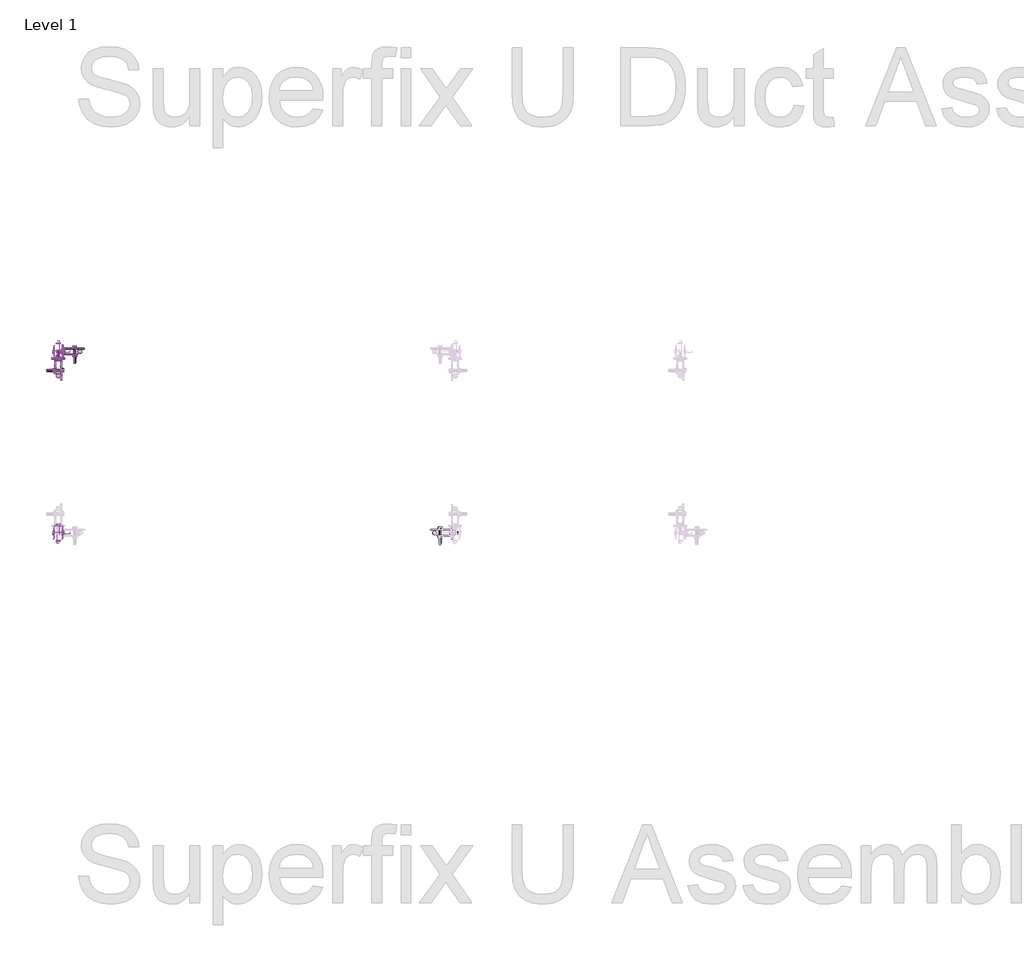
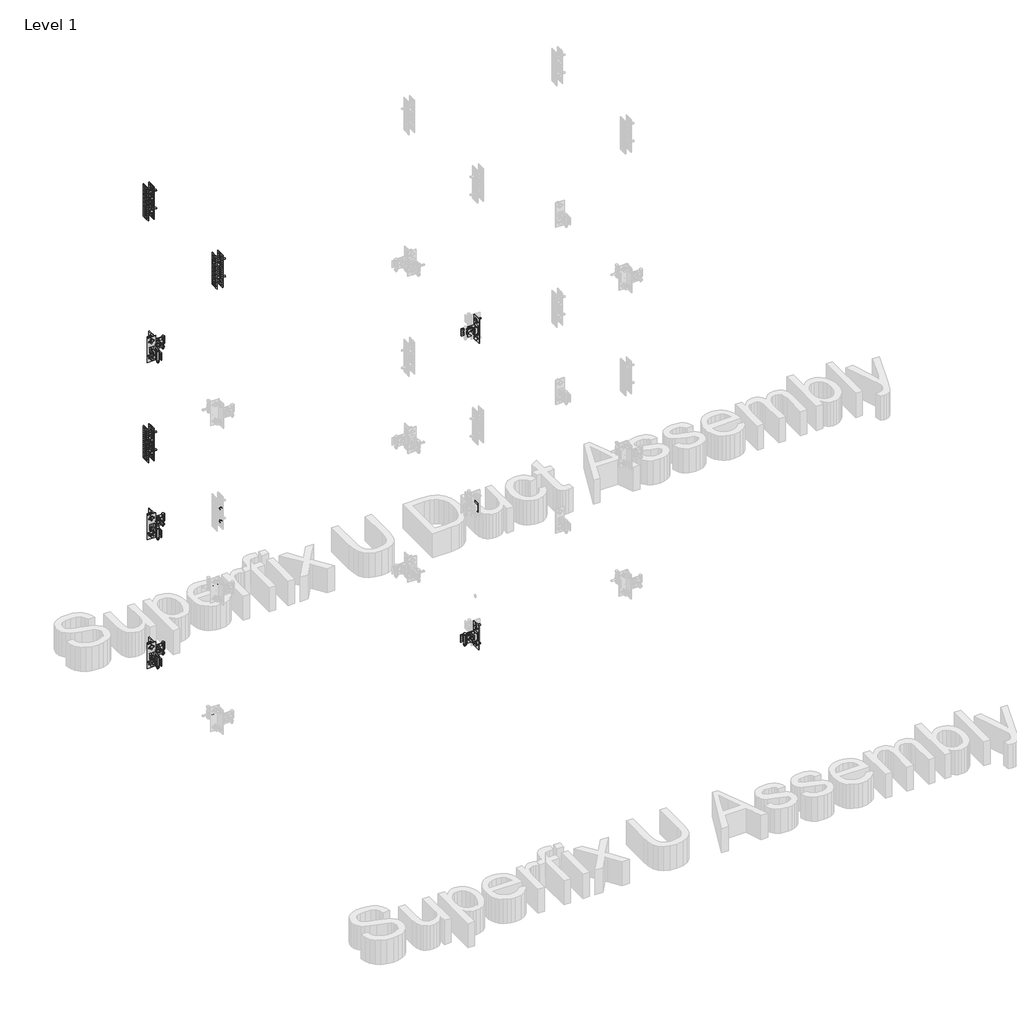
# One storey, part 9 of 32: 143 valves.
"""IFC4 building model written with IfcOpenShell, lengths in millimetres."""

from ifc_helpers import new_model, si_unit, origin, place, context, project, spatial, transform, mapped, element, save
from components import valve_fad8a5b8, hexagon_nut_galvanized_extra_m8_53389388, superfix_hexagon_screw_galvanized_8354a985, superfix_hexagon_screw_galvanized_f0d66714, superfix_hexagon_screw_galvanized_68d17cb7, superfix_hexagon_screw_galvanized_e39b877e, superfix_hexagon_screw_galvanized_3ef5af78, superfix_hexagon_screw_galvanized_3d7df342, superfix_strap_981cfdac, superfix_u_658711f6, superfix_u_31397e19, superfix_u_bracket_h_0b8578fe, superfix_u_bracket_h_f60a1122

model = new_model("IFC4")

# Units and contexts
model_context = context("Model", 3, world=origin())
ifc_project = project(units=[si_unit("LENGTHUNIT", "METRE", prefix="MILLI")], contexts=[model_context])

# Site, building, storey
site = spatial("IfcSite", under=ifc_project)
building = spatial("IfcBuilding", under=site)
storey = spatial("IfcBuildingStorey", under=building, Name="Level 1", Elevation=0.0)

# Valves
placement = place(None, origin())
valve_shape = valve_fad8a5b8(model_context)
element("IfcValve", 1, ObjectType="Superfix Flat Washer : Superfix Flat Washer M8x15x1.5", at=placement, inside=storey, context=model_context, shape_type="MappedRepresentation", body=[
    mapped(valve_shape, transform((-21166.450626, 28765.46055, 700.0), x_axis=(1.0, 0.0, 0.0), y_axis=(0.0, 0.0, 1.0), z_axis=(0.0, -1.0, 0.0))),
])
element("IfcValve", 2, ObjectType="Superfix Flat Washer : Superfix Flat Washer M8x15x1.5", at=placement, inside=storey, context=model_context, shape_type="MappedRepresentation", body=[
    mapped(valve_shape, transform((-21115.450626, 28777.96055, 758.0), x_axis=(0.0, 0.0, 1.0), y_axis=(0.0, 1.0, 0.0), z_axis=(-1.0, 0.0, 0.0))),
])
element("IfcValve", 3, ObjectType="Superfix Flat Washer : Superfix Flat Washer M8x15x1.5", at=placement, inside=storey, context=model_context, shape_type="MappedRepresentation", body=[
    mapped(valve_shape, transform((-21115.450626, 28777.96055, 642.0), x_axis=(0.0, 0.0, 1.0), y_axis=(0.0, 1.0, 0.0), z_axis=(-1.0, 0.0, 0.0))),
])
element("IfcValve", 4, ObjectType="Superfix Flat Washer : Superfix Flat Washer M8x15x1.5", at=placement, inside=storey, context=model_context, shape_type="MappedRepresentation", body=[
    mapped(valve_shape, transform((-21186.450626, 28777.96055, 671.5), x_axis=(1.0, 0.0, 0.0), y_axis=(0.0, -1.0, 0.0), z_axis=(0.0, 0.0, -1.0))),
])
element("IfcValve", 5, ObjectType="Superfix Flat Washer : Superfix Flat Washer M8x15x1.5", at=placement, inside=storey, context=model_context, shape_type="MappedRepresentation", body=[
    mapped(valve_shape, transform((-22576.450626, 29465.46055, 1500.0), x_axis=(1.0, 0.0, 0.0), y_axis=(0.0, 0.0, 1.0), z_axis=(0.0, -1.0, 0.0))),
])
element("IfcValve", 6, ObjectType="Superfix Flat Washer : Superfix Flat Washer M8x15x1.5", at=placement, inside=storey, context=model_context, shape_type="MappedRepresentation", body=[
    mapped(valve_shape, transform((-22625.850626, 29477.96055, 1442.0), x_axis=(0.0, 0.0, 1.0), y_axis=(0.0, 1.0, 0.0), z_axis=(-1.0, 0.0, 0.0))),
])
element("IfcValve", 7, ObjectType="Superfix Flat Washer : Superfix Flat Washer M8x15x1.5", at=placement, inside=storey, context=model_context, shape_type="MappedRepresentation", body=[
    mapped(valve_shape, transform((-22625.850626, 29477.96055, 1558.0), x_axis=(0.0, 0.0, 1.0), y_axis=(0.0, 1.0, 0.0), z_axis=(-1.0, 0.0, 0.0))),
])
element("IfcValve", 8, ObjectType="Superfix Flat Washer : Superfix Flat Washer M8x15x1.5", at=placement, inside=storey, context=model_context, shape_type="MappedRepresentation", body=[
    mapped(valve_shape, transform((-22556.450626, 29477.96055, 1471.5), x_axis=(1.0, 0.0, 0.0), y_axis=(0.0, -1.0, 0.0), z_axis=(0.0, 0.0, -1.0))),
])
element("IfcValve", 9, ObjectType="Superfix Flat Washer : Superfix Flat Washer M8x15x1.5", at=placement, inside=storey, context=model_context, shape_type="MappedRepresentation", body=[
    mapped(valve_shape, transform((-22576.450626, 29465.46055, 700.0), x_axis=(1.0, 0.0, 0.0), y_axis=(0.0, 0.0, 1.0), z_axis=(0.0, -1.0, 0.0))),
])
element("IfcValve", 10, ObjectType="Superfix Flat Washer : Superfix Flat Washer M8x15x1.5", at=placement, inside=storey, context=model_context, shape_type="MappedRepresentation", body=[
    mapped(valve_shape, transform((-22625.850626, 29477.96055, 642.0), x_axis=(0.0, 0.0, 1.0), y_axis=(0.0, 1.0, 0.0), z_axis=(-1.0, 0.0, 0.0))),
])
element("IfcValve", 11, ObjectType="Superfix Flat Washer : Superfix Flat Washer M8x15x1.5", at=placement, inside=storey, context=model_context, shape_type="MappedRepresentation", body=[
    mapped(valve_shape, transform((-22625.850626, 29477.96055, 758.0), x_axis=(0.0, 0.0, 1.0), y_axis=(0.0, 1.0, 0.0), z_axis=(-1.0, 0.0, 0.0))),
])
element("IfcValve", 12, ObjectType="Superfix Flat Washer : Superfix Flat Washer M8x15x1.5", at=placement, inside=storey, context=model_context, shape_type="MappedRepresentation", body=[
    mapped(valve_shape, transform((-22556.450626, 29477.96055, 671.5), x_axis=(1.0, 0.0, 0.0), y_axis=(0.0, -1.0, 0.0), z_axis=(0.0, 0.0, -1.0))),
])
element("IfcValve", 13, ObjectType="Superfix Flat Washer : Superfix Flat Washer M8x15x1.5", at=placement, inside=storey, context=model_context, shape_type="MappedRepresentation", body=[
    mapped(valve_shape, transform((-22576.450626, 29465.46055, 2600.0), x_axis=(1.0, 0.0, 0.0), y_axis=(0.0, 0.0, 1.0), z_axis=(0.0, -1.0, 0.0))),
])
element("IfcValve", 14, ObjectType="Superfix Flat Washer : Superfix Flat Washer M8x15x1.5", at=placement, inside=storey, context=model_context, shape_type="MappedRepresentation", body=[
    mapped(valve_shape, transform((-22625.850626, 29477.96055, 2542.0), x_axis=(0.0, 0.0, 1.0), y_axis=(0.0, 1.0, 0.0), z_axis=(-1.0, 0.0, 0.0))),
])
element("IfcValve", 15, ObjectType="Superfix Flat Washer : Superfix Flat Washer M8x15x1.5", at=placement, inside=storey, context=model_context, shape_type="MappedRepresentation", body=[
    mapped(valve_shape, transform((-22625.850626, 29477.96055, 2658.0), x_axis=(0.0, 0.0, 1.0), y_axis=(0.0, 1.0, 0.0), z_axis=(-1.0, 0.0, 0.0))),
])
element("IfcValve", 16, ObjectType="Superfix Flat Washer : Superfix Flat Washer M8x15x1.5", at=placement, inside=storey, context=model_context, shape_type="MappedRepresentation", body=[
    mapped(valve_shape, transform((-22556.450626, 29477.96055, 2571.5), x_axis=(1.0, 0.0, 0.0), y_axis=(0.0, -1.0, 0.0), z_axis=(0.0, 0.0, -1.0))),
])
element("IfcValve", 17, ObjectType="Superfix Flat Washer : Superfix Flat Washer M8x15x1.5", at=placement, inside=storey, context=model_context, shape_type="MappedRepresentation", body=[
    mapped(valve_shape, transform((-22652.950626, 29403.96055, 2600.0), x_axis=(0.0, -1.0, 0.0), y_axis=(0.0, 0.0, 1.0), z_axis=(-1.0, 0.0, 0.0))),
])
element("IfcValve", 18, ObjectType="Superfix Flat Washer : Superfix Flat Washer M8x15x1.5", at=placement, inside=storey, context=model_context, shape_type="MappedRepresentation", body=[
    mapped(valve_shape, transform((-22640.450626, 29453.36055, 2542.0), x_axis=(0.0, 0.0, 1.0), y_axis=(1.0, 0.0, 0.0), z_axis=(0.0, 1.0, 0.0))),
])
element("IfcValve", 19, ObjectType="Superfix Flat Washer : Superfix Flat Washer M8x15x1.5", at=placement, inside=storey, context=model_context, shape_type="MappedRepresentation", body=[
    mapped(valve_shape, transform((-22640.450626, 29453.36055, 2658.0), x_axis=(0.0, 0.0, 1.0), y_axis=(1.0, 0.0, 0.0), z_axis=(0.0, 1.0, 0.0))),
])
element("IfcValve", 20, ObjectType="Superfix Flat Washer : Superfix Flat Washer M8x15x1.5", at=placement, inside=storey, context=model_context, shape_type="MappedRepresentation", body=[
    mapped(valve_shape, transform((-22640.450626, 29383.96055, 2571.5), x_axis=(0.0, -1.0, 0.0), y_axis=(-1.0, 0.0, 0.0), z_axis=(0.0, 0.0, -1.0))),
])
element("IfcValve", 21, ObjectType="Superfix Flat Washer : Superfix Flat Washer M8x15x1.5", at=placement, inside=storey, context=model_context, shape_type="MappedRepresentation", body=[
    mapped(valve_shape, transform((-22652.950626, 29403.96055, 1500.0), x_axis=(0.0, -1.0, 0.0), y_axis=(0.0, 0.0, 1.0), z_axis=(-1.0, 0.0, 0.0))),
])
element("IfcValve", 22, ObjectType="Superfix Flat Washer : Superfix Flat Washer M8x15x1.5", at=placement, inside=storey, context=model_context, shape_type="MappedRepresentation", body=[
    mapped(valve_shape, transform((-22640.450626, 29453.36055, 1442.0), x_axis=(0.0, 0.0, 1.0), y_axis=(1.0, 0.0, 0.0), z_axis=(0.0, 1.0, 0.0))),
])
element("IfcValve", 23, ObjectType="Superfix Flat Washer : Superfix Flat Washer M8x15x1.5", at=placement, inside=storey, context=model_context, shape_type="MappedRepresentation", body=[
    mapped(valve_shape, transform((-22640.450626, 29453.36055, 1558.0), x_axis=(0.0, 0.0, 1.0), y_axis=(1.0, 0.0, 0.0), z_axis=(0.0, 1.0, 0.0))),
])
element("IfcValve", 24, ObjectType="Superfix Flat Washer : Superfix Flat Washer M8x15x1.5", at=placement, inside=storey, context=model_context, shape_type="MappedRepresentation", body=[
    mapped(valve_shape, transform((-22640.450626, 29383.96055, 1471.5), x_axis=(0.0, -1.0, 0.0), y_axis=(-1.0, 0.0, 0.0), z_axis=(0.0, 0.0, -1.0))),
])
element("IfcValve", 25, ObjectType="Superfix Flat Washer : Superfix Flat Washer M8x15x1.5", at=placement, inside=storey, context=model_context, shape_type="MappedRepresentation", body=[
    mapped(valve_shape, transform((-22652.950626, 29404.96055, 700.0), x_axis=(0.0, -1.0, 0.0), y_axis=(0.0, 0.0, 1.0), z_axis=(-1.0, 0.0, 0.0))),
])
element("IfcValve", 26, ObjectType="Superfix Flat Washer : Superfix Flat Washer M8x15x1.5", at=placement, inside=storey, context=model_context, shape_type="MappedRepresentation", body=[
    mapped(valve_shape, transform((-22640.450626, 29454.36055, 642.0), x_axis=(0.0, 0.0, 1.0), y_axis=(1.0, 0.0, 0.0), z_axis=(0.0, 1.0, 0.0))),
])
element("IfcValve", 27, ObjectType="Superfix Flat Washer : Superfix Flat Washer M8x15x1.5", at=placement, inside=storey, context=model_context, shape_type="MappedRepresentation", body=[
    mapped(valve_shape, transform((-22640.450626, 29454.36055, 758.0), x_axis=(0.0, 0.0, 1.0), y_axis=(1.0, 0.0, 0.0), z_axis=(0.0, 1.0, 0.0))),
])
element("IfcValve", 28, ObjectType="Superfix Flat Washer : Superfix Flat Washer M8x15x1.5", at=placement, inside=storey, context=model_context, shape_type="MappedRepresentation", body=[
    mapped(valve_shape, transform((-22640.450626, 29384.96055, 671.5), x_axis=(0.0, -1.0, 0.0), y_axis=(-1.0, 0.0, 0.0), z_axis=(0.0, 0.0, -1.0))),
])
element("IfcValve", 29, ObjectType="Superfix Flat Washer : Superfix Flat Washer M8x15x1.5", at=placement, inside=storey, context=model_context, shape_type="MappedRepresentation", body=[
    mapped(valve_shape, transform((-22624.450626, 29477.96055, 1945.0), x_axis=(0.0, 1.0, 0.0), y_axis=(0.0, 0.0, 1.0), z_axis=(1.0, 0.0, 0.0))),
])
element("IfcValve", 30, ObjectType="Superfix Flat Washer : Superfix Flat Washer M8x15x1.5", at=placement, inside=storey, context=model_context, shape_type="MappedRepresentation", body=[
    mapped(valve_shape, transform((-22624.450626, 29477.96055, 2055.0), x_axis=(0.0, 1.0, 0.0), y_axis=(0.0, 0.0, 1.0), z_axis=(1.0, 0.0, 0.0))),
])
element("IfcValve", 31, ObjectType="Superfix Flat Washer : Superfix Flat Washer M8x15x1.5", at=placement, inside=storey, context=model_context, shape_type="MappedRepresentation", body=[
    mapped(valve_shape, transform((-22640.450626, 29508.06055, 2040.0), x_axis=(1.0, 0.0, 0.0), y_axis=(0.0, 0.0, 1.0), z_axis=(0.0, -1.0, 0.0))),
])
element("IfcValve", 32, ObjectType="Superfix Flat Washer : Superfix Flat Washer M8x15x1.5", at=placement, inside=storey, context=model_context, shape_type="MappedRepresentation", body=[
    mapped(valve_shape, transform((-22640.450626, 29508.06055, 1960.0), x_axis=(1.0, 0.0, 0.0), y_axis=(0.0, 0.0, 1.0), z_axis=(0.0, -1.0, 0.0))),
])
element("IfcValve", 33, ObjectType="Superfix Flat Washer : Superfix Flat Washer M8x15x1.5", at=placement, inside=storey, context=model_context, shape_type="MappedRepresentation", body=[
    mapped(valve_shape, transform((-22624.450626, 29477.96055, 3445.0), x_axis=(0.0, 1.0, 0.0), y_axis=(0.0, 0.0, 1.0), z_axis=(1.0, 0.0, 0.0))),
])
element("IfcValve", 34, ObjectType="Superfix Flat Washer : Superfix Flat Washer M8x15x1.5", at=placement, inside=storey, context=model_context, shape_type="MappedRepresentation", body=[
    mapped(valve_shape, transform((-22624.450626, 29477.96055, 3555.0), x_axis=(0.0, 1.0, 0.0), y_axis=(0.0, 0.0, 1.0), z_axis=(1.0, 0.0, 0.0))),
])
element("IfcValve", 35, ObjectType="Superfix Flat Washer : Superfix Flat Washer M8x15x1.5", at=placement, inside=storey, context=model_context, shape_type="MappedRepresentation", body=[
    mapped(valve_shape, transform((-22624.450626, 28777.96055, 3445.0), x_axis=(0.0, 1.0, 0.0), y_axis=(0.0, 0.0, 1.0), z_axis=(1.0, 0.0, 0.0))),
])
element("IfcValve", 36, ObjectType="Superfix Flat Washer : Superfix Flat Washer M8x15x1.5", at=placement, inside=storey, context=model_context, shape_type="MappedRepresentation", body=[
    mapped(valve_shape, transform((-22624.450626, 28777.96055, 3555.0), x_axis=(0.0, 1.0, 0.0), y_axis=(0.0, 0.0, 1.0), z_axis=(1.0, 0.0, 0.0))),
])
element("IfcValve", 37, ObjectType="Superfix Flat Washer : Superfix Flat Washer M8x15x1.5", at=placement, inside=storey, context=model_context, shape_type="MappedRepresentation", body=[
    mapped(valve_shape, transform((-22640.450626, 29508.06055, 3540.0), x_axis=(1.0, 0.0, 0.0), y_axis=(0.0, 0.0, 1.0), z_axis=(0.0, -1.0, 0.0))),
])
element("IfcValve", 38, ObjectType="Superfix Flat Washer : Superfix Flat Washer M8x15x1.5", at=placement, inside=storey, context=model_context, shape_type="MappedRepresentation", body=[
    mapped(valve_shape, transform((-22640.450626, 28749.46055, 3540.0), x_axis=(1.0, 0.0, 0.0), y_axis=(0.0, 0.0, 1.0), z_axis=(0.0, -1.0, 0.0))),
])
element("IfcValve", 39, ObjectType="Superfix Flat Washer : Superfix Flat Washer M8x15x1.5", at=placement, inside=storey, context=model_context, shape_type="MappedRepresentation", body=[
    mapped(valve_shape, transform((-22640.450626, 28749.46055, 3460.0), x_axis=(1.0, 0.0, 0.0), y_axis=(0.0, 0.0, 1.0), z_axis=(0.0, -1.0, 0.0))),
])
element("IfcValve", 40, ObjectType="Superfix Flat Washer : Superfix Flat Washer M8x15x1.5", at=placement, inside=storey, context=model_context, shape_type="MappedRepresentation", body=[
    mapped(valve_shape, transform((-22640.450626, 29508.06055, 3460.0), x_axis=(1.0, 0.0, 0.0), y_axis=(0.0, 0.0, 1.0), z_axis=(0.0, -1.0, 0.0))),
])
hexagon_nut_galvanized_extra_m8_shape = hexagon_nut_galvanized_extra_m8_53389388(model_context)
element("IfcValve", 41, ObjectType="Superfix Hexagon Nut Galvanized : Hexagon Nut Galvanized M8", at=placement, inside=storey, context=model_context, shape_type="MappedRepresentation", body=[
    mapped(hexagon_nut_galvanized_extra_m8_shape, transform((-21166.450626, 28765.46055, 700.0), x_axis=(1.0, 0.0, 0.0), y_axis=(0.0, 0.0, 1.0), z_axis=(0.0, -1.0, 0.0))),
])
element("IfcValve", 42, ObjectType="Superfix Hexagon Nut Galvanized : Hexagon Nut Galvanized M8", at=placement, inside=storey, context=model_context, shape_type="MappedRepresentation", body=[
    mapped(hexagon_nut_galvanized_extra_m8_shape, transform((-21186.450626, 28777.96055, 665.0), x_axis=(0.0, 1.0, 0.0), y_axis=(-1.0, 0.0, 0.0), z_axis=(0.0, 0.0, 1.0))),
])
element("IfcValve", 43, ObjectType="Superfix Hexagon Nut Galvanized : Hexagon Nut Galvanized M8", at=placement, inside=storey, context=model_context, shape_type="MappedRepresentation", body=[
    mapped(hexagon_nut_galvanized_extra_m8_shape, transform((-21108.950626, 28777.96055, 642.0), x_axis=(0.0, 0.0, 1.0), y_axis=(0.0, 1.0, 0.0), z_axis=(-1.0, 0.0, 0.0))),
])
element("IfcValve", 44, ObjectType="Superfix Hexagon Nut Galvanized : Hexagon Nut Galvanized M8", at=placement, inside=storey, context=model_context, shape_type="MappedRepresentation", body=[
    mapped(hexagon_nut_galvanized_extra_m8_shape, transform((-21108.950626, 28777.96055, 758.0), x_axis=(0.0, 0.0, 1.0), y_axis=(0.0, 1.0, 0.0), z_axis=(-1.0, 0.0, 0.0))),
])
element("IfcValve", 45, ObjectType="Superfix Hexagon Nut Galvanized : Hexagon Nut Galvanized M8", at=placement, inside=storey, context=model_context, shape_type="MappedRepresentation", body=[
    mapped(hexagon_nut_galvanized_extra_m8_shape, transform((-22576.450626, 29465.46055, 1500.0), x_axis=(-1.0, 0.0, 0.0), y_axis=(0.0, 0.0, -1.0), z_axis=(0.0, -1.0, 0.0))),
])
element("IfcValve", 46, ObjectType="Superfix Hexagon Nut Galvanized : Hexagon Nut Galvanized M8", at=placement, inside=storey, context=model_context, shape_type="MappedRepresentation", body=[
    mapped(hexagon_nut_galvanized_extra_m8_shape, transform((-22556.450626, 29477.96055, 1465.0), x_axis=(0.0, 1.0, 0.0), y_axis=(-1.0, 0.0, 0.0), z_axis=(0.0, 0.0, 1.0))),
])
element("IfcValve", 47, ObjectType="Superfix Hexagon Nut Galvanized : Hexagon Nut Galvanized M8", at=placement, inside=storey, context=model_context, shape_type="MappedRepresentation", body=[
    mapped(hexagon_nut_galvanized_extra_m8_shape, transform((-22633.950626, 29477.96055, 1442.0), x_axis=(0.0, 0.0, 1.0), y_axis=(0.0, -1.0, 0.0), z_axis=(1.0, 0.0, 0.0))),
])
element("IfcValve", 48, ObjectType="Superfix Hexagon Nut Galvanized : Hexagon Nut Galvanized M8", at=placement, inside=storey, context=model_context, shape_type="MappedRepresentation", body=[
    mapped(hexagon_nut_galvanized_extra_m8_shape, transform((-22633.950626, 29477.96055, 1558.0), x_axis=(0.0, 0.0, 1.0), y_axis=(0.0, -1.0, 0.0), z_axis=(1.0, 0.0, 0.0))),
])
element("IfcValve", 49, ObjectType="Superfix Hexagon Nut Galvanized : Hexagon Nut Galvanized M8", at=placement, inside=storey, context=model_context, shape_type="MappedRepresentation", body=[
    mapped(hexagon_nut_galvanized_extra_m8_shape, transform((-22576.450626, 29465.46055, 700.0), x_axis=(-1.0, 0.0, 0.0), y_axis=(0.0, 0.0, -1.0), z_axis=(0.0, -1.0, 0.0))),
])
element("IfcValve", 50, ObjectType="Superfix Hexagon Nut Galvanized : Hexagon Nut Galvanized M8", at=placement, inside=storey, context=model_context, shape_type="MappedRepresentation", body=[
    mapped(hexagon_nut_galvanized_extra_m8_shape, transform((-22556.450626, 29477.96055, 665.0), x_axis=(0.0, 1.0, 0.0), y_axis=(-1.0, 0.0, 0.0), z_axis=(0.0, 0.0, 1.0))),
])
element("IfcValve", 51, ObjectType="Superfix Hexagon Nut Galvanized : Hexagon Nut Galvanized M8", at=placement, inside=storey, context=model_context, shape_type="MappedRepresentation", body=[
    mapped(hexagon_nut_galvanized_extra_m8_shape, transform((-22633.950626, 29477.96055, 642.0), x_axis=(0.0, 0.0, 1.0), y_axis=(0.0, -1.0, 0.0), z_axis=(1.0, 0.0, 0.0))),
])
element("IfcValve", 52, ObjectType="Superfix Hexagon Nut Galvanized : Hexagon Nut Galvanized M8", at=placement, inside=storey, context=model_context, shape_type="MappedRepresentation", body=[
    mapped(hexagon_nut_galvanized_extra_m8_shape, transform((-22633.950626, 29477.96055, 758.0), x_axis=(0.0, 0.0, 1.0), y_axis=(0.0, -1.0, 0.0), z_axis=(1.0, 0.0, 0.0))),
])
element("IfcValve", 53, ObjectType="Superfix Hexagon Nut Galvanized : Hexagon Nut Galvanized M8", at=placement, inside=storey, context=model_context, shape_type="MappedRepresentation", body=[
    mapped(hexagon_nut_galvanized_extra_m8_shape, transform((-22576.450626, 29465.46055, 2600.0), x_axis=(-1.0, 0.0, 0.0), y_axis=(0.0, 0.0, -1.0), z_axis=(0.0, -1.0, 0.0))),
])
element("IfcValve", 54, ObjectType="Superfix Hexagon Nut Galvanized : Hexagon Nut Galvanized M8", at=placement, inside=storey, context=model_context, shape_type="MappedRepresentation", body=[
    mapped(hexagon_nut_galvanized_extra_m8_shape, transform((-22556.450626, 29477.96055, 2565.0), x_axis=(0.0, 1.0, 0.0), y_axis=(-1.0, 0.0, 0.0), z_axis=(0.0, 0.0, 1.0))),
])
element("IfcValve", 55, ObjectType="Superfix Hexagon Nut Galvanized : Hexagon Nut Galvanized M8", at=placement, inside=storey, context=model_context, shape_type="MappedRepresentation", body=[
    mapped(hexagon_nut_galvanized_extra_m8_shape, transform((-22633.950626, 29477.96055, 2542.0), x_axis=(0.0, 0.0, 1.0), y_axis=(0.0, -1.0, 0.0), z_axis=(1.0, 0.0, 0.0))),
])
element("IfcValve", 56, ObjectType="Superfix Hexagon Nut Galvanized : Hexagon Nut Galvanized M8", at=placement, inside=storey, context=model_context, shape_type="MappedRepresentation", body=[
    mapped(hexagon_nut_galvanized_extra_m8_shape, transform((-22633.950626, 29477.96055, 2658.0), x_axis=(0.0, 0.0, 1.0), y_axis=(0.0, -1.0, 0.0), z_axis=(1.0, 0.0, 0.0))),
])
element("IfcValve", 57, ObjectType="Superfix Hexagon Nut Galvanized : Hexagon Nut Galvanized M8", at=placement, inside=storey, context=model_context, shape_type="MappedRepresentation", body=[
    mapped(hexagon_nut_galvanized_extra_m8_shape, transform((-22652.950626, 29403.96055, 2600.0), x_axis=(0.0, 1.0, 0.0), y_axis=(0.0, 0.0, -1.0), z_axis=(-1.0, 0.0, 0.0))),
])
element("IfcValve", 58, ObjectType="Superfix Hexagon Nut Galvanized : Hexagon Nut Galvanized M8", at=placement, inside=storey, context=model_context, shape_type="MappedRepresentation", body=[
    mapped(hexagon_nut_galvanized_extra_m8_shape, transform((-22640.450626, 29383.96055, 2565.0), x_axis=(1.0, 0.0, 0.0), y_axis=(0.0, 1.0, 0.0), z_axis=(0.0, 0.0, 1.0))),
])
element("IfcValve", 59, ObjectType="Superfix Hexagon Nut Galvanized : Hexagon Nut Galvanized M8", at=placement, inside=storey, context=model_context, shape_type="MappedRepresentation", body=[
    mapped(hexagon_nut_galvanized_extra_m8_shape, transform((-22640.450626, 29461.46055, 2542.0), x_axis=(0.0, 0.0, 1.0), y_axis=(-1.0, 0.0, 0.0), z_axis=(0.0, -1.0, 0.0))),
])
element("IfcValve", 60, ObjectType="Superfix Hexagon Nut Galvanized : Hexagon Nut Galvanized M8", at=placement, inside=storey, context=model_context, shape_type="MappedRepresentation", body=[
    mapped(hexagon_nut_galvanized_extra_m8_shape, transform((-22640.450626, 29461.46055, 2658.0), x_axis=(0.0, 0.0, 1.0), y_axis=(-1.0, 0.0, 0.0), z_axis=(0.0, -1.0, 0.0))),
])
element("IfcValve", 61, ObjectType="Superfix Hexagon Nut Galvanized : Hexagon Nut Galvanized M8", at=placement, inside=storey, context=model_context, shape_type="MappedRepresentation", body=[
    mapped(hexagon_nut_galvanized_extra_m8_shape, transform((-22652.950626, 29403.96055, 1500.0), x_axis=(0.0, 1.0, 0.0), y_axis=(0.0, 0.0, -1.0), z_axis=(-1.0, 0.0, 0.0))),
])
element("IfcValve", 62, ObjectType="Superfix Hexagon Nut Galvanized : Hexagon Nut Galvanized M8", at=placement, inside=storey, context=model_context, shape_type="MappedRepresentation", body=[
    mapped(hexagon_nut_galvanized_extra_m8_shape, transform((-22640.450626, 29383.96055, 1465.0), x_axis=(1.0, 0.0, 0.0), y_axis=(0.0, 1.0, 0.0), z_axis=(0.0, 0.0, 1.0))),
])
element("IfcValve", 63, ObjectType="Superfix Hexagon Nut Galvanized : Hexagon Nut Galvanized M8", at=placement, inside=storey, context=model_context, shape_type="MappedRepresentation", body=[
    mapped(hexagon_nut_galvanized_extra_m8_shape, transform((-22640.450626, 29461.46055, 1442.0), x_axis=(0.0, 0.0, 1.0), y_axis=(-1.0, 0.0, 0.0), z_axis=(0.0, -1.0, 0.0))),
])
element("IfcValve", 64, ObjectType="Superfix Hexagon Nut Galvanized : Hexagon Nut Galvanized M8", at=placement, inside=storey, context=model_context, shape_type="MappedRepresentation", body=[
    mapped(hexagon_nut_galvanized_extra_m8_shape, transform((-22640.450626, 29461.46055, 1558.0), x_axis=(0.0, 0.0, 1.0), y_axis=(-1.0, 0.0, 0.0), z_axis=(0.0, -1.0, 0.0))),
])
element("IfcValve", 65, ObjectType="Superfix Hexagon Nut Galvanized : Hexagon Nut Galvanized M8", at=placement, inside=storey, context=model_context, shape_type="MappedRepresentation", body=[
    mapped(hexagon_nut_galvanized_extra_m8_shape, transform((-22652.950626, 29404.96055, 700.0), x_axis=(0.0, 1.0, 0.0), y_axis=(0.0, 0.0, -1.0), z_axis=(-1.0, 0.0, 0.0))),
])
element("IfcValve", 66, ObjectType="Superfix Hexagon Nut Galvanized : Hexagon Nut Galvanized M8", at=placement, inside=storey, context=model_context, shape_type="MappedRepresentation", body=[
    mapped(hexagon_nut_galvanized_extra_m8_shape, transform((-22640.450626, 29384.96055, 665.0), x_axis=(1.0, 0.0, 0.0), y_axis=(0.0, 1.0, 0.0), z_axis=(0.0, 0.0, 1.0))),
])
element("IfcValve", 67, ObjectType="Superfix Hexagon Nut Galvanized : Hexagon Nut Galvanized M8", at=placement, inside=storey, context=model_context, shape_type="MappedRepresentation", body=[
    mapped(hexagon_nut_galvanized_extra_m8_shape, transform((-22640.450626, 29462.46055, 642.0), x_axis=(0.0, 0.0, 1.0), y_axis=(-1.0, 0.0, 0.0), z_axis=(0.0, -1.0, 0.0))),
])
element("IfcValve", 68, ObjectType="Superfix Hexagon Nut Galvanized : Hexagon Nut Galvanized M8", at=placement, inside=storey, context=model_context, shape_type="MappedRepresentation", body=[
    mapped(hexagon_nut_galvanized_extra_m8_shape, transform((-22640.450626, 29462.46055, 758.0), x_axis=(0.0, 0.0, 1.0), y_axis=(-1.0, 0.0, 0.0), z_axis=(0.0, -1.0, 0.0))),
])
element("IfcValve", 69, ObjectType="Superfix Hexagon Nut Galvanized : Hexagon Nut Galvanized M8", at=placement, inside=storey, context=model_context, shape_type="MappedRepresentation", body=[
    mapped(hexagon_nut_galvanized_extra_m8_shape, transform((-22624.450626, 29477.96055, 2055.0), x_axis=(0.0, 1.0, 0.0), y_axis=(0.0, 0.0, 1.0), z_axis=(1.0, 0.0, 0.0))),
])
element("IfcValve", 70, ObjectType="Superfix Hexagon Nut Galvanized : Hexagon Nut Galvanized M8", at=placement, inside=storey, context=model_context, shape_type="MappedRepresentation", body=[
    mapped(hexagon_nut_galvanized_extra_m8_shape, transform((-22624.450626, 29477.96055, 1945.0), x_axis=(0.0, 1.0, 0.0), y_axis=(0.0, 0.0, 1.0), z_axis=(1.0, 0.0, 0.0))),
])
element("IfcValve", 71, ObjectType="Superfix Hexagon Nut Galvanized : Hexagon Nut Galvanized M8", at=placement, inside=storey, context=model_context, shape_type="MappedRepresentation", body=[
    mapped(hexagon_nut_galvanized_extra_m8_shape, transform((-22640.450626, 28749.46055, 2040.0), x_axis=(1.0, 0.0, 0.0), y_axis=(0.0, 0.0, 1.0), z_axis=(0.0, -1.0, 0.0))),
])
element("IfcValve", 72, ObjectType="Superfix Hexagon Nut Galvanized : Hexagon Nut Galvanized M8", at=placement, inside=storey, context=model_context, shape_type="MappedRepresentation", body=[
    mapped(hexagon_nut_galvanized_extra_m8_shape, transform((-22640.450626, 29512.96055, 2040.0), x_axis=(1.0, 0.0, 0.0), y_axis=(0.0, 0.0, 1.0), z_axis=(0.0, -1.0, 0.0))),
])
element("IfcValve", 73, ObjectType="Superfix Hexagon Nut Galvanized : Hexagon Nut Galvanized M8", at=placement, inside=storey, context=model_context, shape_type="MappedRepresentation", body=[
    mapped(hexagon_nut_galvanized_extra_m8_shape, transform((-22640.450626, 29512.96055, 1960.0), x_axis=(1.0, 0.0, 0.0), y_axis=(0.0, 0.0, 1.0), z_axis=(0.0, -1.0, 0.0))),
])
element("IfcValve", 74, ObjectType="Superfix Hexagon Nut Galvanized : Hexagon Nut Galvanized M8", at=placement, inside=storey, context=model_context, shape_type="MappedRepresentation", body=[
    mapped(hexagon_nut_galvanized_extra_m8_shape, transform((-22640.450626, 28749.46055, 1960.0), x_axis=(1.0, 0.0, 0.0), y_axis=(0.0, 0.0, 1.0), z_axis=(0.0, -1.0, 0.0))),
])
element("IfcValve", 75, ObjectType="Superfix Hexagon Nut Galvanized : Hexagon Nut Galvanized M8", at=placement, inside=storey, context=model_context, shape_type="MappedRepresentation", body=[
    mapped(hexagon_nut_galvanized_extra_m8_shape, transform((-22624.450626, 28777.96055, 3555.0), x_axis=(0.0, 1.0, 0.0), y_axis=(0.0, 0.0, 1.0), z_axis=(1.0, 0.0, 0.0))),
])
element("IfcValve", 76, ObjectType="Superfix Hexagon Nut Galvanized : Hexagon Nut Galvanized M8", at=placement, inside=storey, context=model_context, shape_type="MappedRepresentation", body=[
    mapped(hexagon_nut_galvanized_extra_m8_shape, transform((-22624.450626, 28777.96055, 3445.0), x_axis=(0.0, 1.0, 0.0), y_axis=(0.0, 0.0, 1.0), z_axis=(1.0, 0.0, 0.0))),
])
element("IfcValve", 77, ObjectType="Superfix Hexagon Nut Galvanized : Hexagon Nut Galvanized M8", at=placement, inside=storey, context=model_context, shape_type="MappedRepresentation", body=[
    mapped(hexagon_nut_galvanized_extra_m8_shape, transform((-22624.450626, 29477.96055, 3555.0), x_axis=(0.0, 1.0, 0.0), y_axis=(0.0, 0.0, 1.0), z_axis=(1.0, 0.0, 0.0))),
])
element("IfcValve", 78, ObjectType="Superfix Hexagon Nut Galvanized : Hexagon Nut Galvanized M8", at=placement, inside=storey, context=model_context, shape_type="MappedRepresentation", body=[
    mapped(hexagon_nut_galvanized_extra_m8_shape, transform((-22624.450626, 29477.96055, 3445.0), x_axis=(0.0, 1.0, 0.0), y_axis=(0.0, 0.0, 1.0), z_axis=(1.0, 0.0, 0.0))),
])
element("IfcValve", 79, ObjectType="Superfix Hexagon Nut Galvanized : Hexagon Nut Galvanized M8", at=placement, inside=storey, context=model_context, shape_type="MappedRepresentation", body=[
    mapped(hexagon_nut_galvanized_extra_m8_shape, transform((-22640.450626, 28749.46055, 3540.0), x_axis=(1.0, 0.0, 0.0), y_axis=(0.0, 0.0, 1.0), z_axis=(0.0, -1.0, 0.0))),
])
element("IfcValve", 80, ObjectType="Superfix Hexagon Nut Galvanized : Hexagon Nut Galvanized M8", at=placement, inside=storey, context=model_context, shape_type="MappedRepresentation", body=[
    mapped(hexagon_nut_galvanized_extra_m8_shape, transform((-22640.450626, 29512.96055, 3540.0), x_axis=(1.0, 0.0, 0.0), y_axis=(0.0, 0.0, 1.0), z_axis=(0.0, -1.0, 0.0))),
])
element("IfcValve", 81, ObjectType="Superfix Hexagon Nut Galvanized : Hexagon Nut Galvanized M8", at=placement, inside=storey, context=model_context, shape_type="MappedRepresentation", body=[
    mapped(hexagon_nut_galvanized_extra_m8_shape, transform((-22640.450626, 29512.96055, 3460.0), x_axis=(1.0, 0.0, 0.0), y_axis=(0.0, 0.0, 1.0), z_axis=(0.0, -1.0, 0.0))),
])
element("IfcValve", 82, ObjectType="Superfix Hexagon Nut Galvanized : Hexagon Nut Galvanized M8", at=placement, inside=storey, context=model_context, shape_type="MappedRepresentation", body=[
    mapped(hexagon_nut_galvanized_extra_m8_shape, transform((-22640.450626, 28749.46055, 3460.0), x_axis=(1.0, 0.0, 0.0), y_axis=(0.0, 0.0, 1.0), z_axis=(0.0, -1.0, 0.0))),
])
superfix_hexagon_screw_galvanized_shape = superfix_hexagon_screw_galvanized_8354a985(model_context)
element("IfcValve", 83, ObjectType="SuperFix Hexagon Screw Galvanized : Hexagon Screw Galvanized M8 × 25", at=placement, inside=storey, context=model_context, shape_type="MappedRepresentation", body=[
    mapped(superfix_hexagon_screw_galvanized_shape, transform((-22621.450626, 29477.96055, 1558.0), x_axis=(0.0, 0.0, 1.0), y_axis=(0.0, -1.0, 0.0), z_axis=(1.0, 0.0, 0.0))),
])
element("IfcValve", 84, ObjectType="SuperFix Hexagon Screw Galvanized : Hexagon Screw Galvanized M8 × 25", at=placement, inside=storey, context=model_context, shape_type="MappedRepresentation", body=[
    mapped(superfix_hexagon_screw_galvanized_shape, transform((-22621.450626, 29477.96055, 1442.0), x_axis=(0.0, 0.0, 1.0), y_axis=(0.0, -1.0, 0.0), z_axis=(1.0, 0.0, 0.0))),
])
element("IfcValve", 85, ObjectType="SuperFix Hexagon Screw Galvanized : Hexagon Screw Galvanized M8 × 25", at=placement, inside=storey, context=model_context, shape_type="MappedRepresentation", body=[
    mapped(superfix_hexagon_screw_galvanized_shape, transform((-22621.450626, 29477.96055, 758.0), x_axis=(0.0, 0.0, 1.0), y_axis=(0.0, -1.0, 0.0), z_axis=(1.0, 0.0, 0.0))),
])
element("IfcValve", 86, ObjectType="SuperFix Hexagon Screw Galvanized : Hexagon Screw Galvanized M8 × 25", at=placement, inside=storey, context=model_context, shape_type="MappedRepresentation", body=[
    mapped(superfix_hexagon_screw_galvanized_shape, transform((-22621.450626, 29477.96055, 642.0), x_axis=(0.0, 0.0, 1.0), y_axis=(0.0, -1.0, 0.0), z_axis=(1.0, 0.0, 0.0))),
])
element("IfcValve", 87, ObjectType="SuperFix Hexagon Screw Galvanized : Hexagon Screw Galvanized M8 × 25", at=placement, inside=storey, context=model_context, shape_type="MappedRepresentation", body=[
    mapped(superfix_hexagon_screw_galvanized_shape, transform((-22621.450626, 29477.96055, 2658.0), x_axis=(0.0, 0.0, 1.0), y_axis=(0.0, -1.0, 0.0), z_axis=(1.0, 0.0, 0.0))),
])
element("IfcValve", 88, ObjectType="SuperFix Hexagon Screw Galvanized : Hexagon Screw Galvanized M8 × 25", at=placement, inside=storey, context=model_context, shape_type="MappedRepresentation", body=[
    mapped(superfix_hexagon_screw_galvanized_shape, transform((-22621.450626, 29477.96055, 2542.0), x_axis=(0.0, 0.0, 1.0), y_axis=(0.0, -1.0, 0.0), z_axis=(1.0, 0.0, 0.0))),
])
element("IfcValve", 89, ObjectType="SuperFix Hexagon Screw Galvanized : Hexagon Screw Galvanized M8 × 25", at=placement, inside=storey, context=model_context, shape_type="MappedRepresentation", body=[
    mapped(superfix_hexagon_screw_galvanized_shape, transform((-22640.450626, 29448.96055, 2658.0), x_axis=(0.0, 0.0, 1.0), y_axis=(-1.0, 0.0, 0.0), z_axis=(0.0, -1.0, 0.0))),
])
element("IfcValve", 90, ObjectType="SuperFix Hexagon Screw Galvanized : Hexagon Screw Galvanized M8 × 25", at=placement, inside=storey, context=model_context, shape_type="MappedRepresentation", body=[
    mapped(superfix_hexagon_screw_galvanized_shape, transform((-22640.450626, 29448.96055, 2542.0), x_axis=(0.0, 0.0, 1.0), y_axis=(-1.0, 0.0, 0.0), z_axis=(0.0, -1.0, 0.0))),
])
element("IfcValve", 91, ObjectType="SuperFix Hexagon Screw Galvanized : Hexagon Screw Galvanized M8 × 25", at=placement, inside=storey, context=model_context, shape_type="MappedRepresentation", body=[
    mapped(superfix_hexagon_screw_galvanized_shape, transform((-22640.450626, 29448.96055, 1558.0), x_axis=(0.0, 0.0, 1.0), y_axis=(-1.0, 0.0, 0.0), z_axis=(0.0, -1.0, 0.0))),
])
element("IfcValve", 92, ObjectType="SuperFix Hexagon Screw Galvanized : Hexagon Screw Galvanized M8 × 25", at=placement, inside=storey, context=model_context, shape_type="MappedRepresentation", body=[
    mapped(superfix_hexagon_screw_galvanized_shape, transform((-22640.450626, 29448.96055, 1442.0), x_axis=(0.0, 0.0, 1.0), y_axis=(-1.0, 0.0, 0.0), z_axis=(0.0, -1.0, 0.0))),
])
element("IfcValve", 93, ObjectType="SuperFix Hexagon Screw Galvanized : Hexagon Screw Galvanized M8 × 25", at=placement, inside=storey, context=model_context, shape_type="MappedRepresentation", body=[
    mapped(superfix_hexagon_screw_galvanized_shape, transform((-22640.450626, 29449.96055, 758.0), x_axis=(0.0, 0.0, 1.0), y_axis=(-1.0, 0.0, 0.0), z_axis=(0.0, -1.0, 0.0))),
])
element("IfcValve", 94, ObjectType="SuperFix Hexagon Screw Galvanized : Hexagon Screw Galvanized M8 × 25", at=placement, inside=storey, context=model_context, shape_type="MappedRepresentation", body=[
    mapped(superfix_hexagon_screw_galvanized_shape, transform((-22640.450626, 29449.96055, 642.0), x_axis=(0.0, 0.0, 1.0), y_axis=(-1.0, 0.0, 0.0), z_axis=(0.0, -1.0, 0.0))),
])
superfix_hexagon_screw_galvanized_2_shape = superfix_hexagon_screw_galvanized_f0d66714(model_context)
element("IfcValve", 95, ObjectType="SuperFix Hexagon Screw Galvanized : Hexagon Screw Galvanized M8 × 60", at=placement, inside=storey, context=model_context, shape_type="MappedRepresentation", body=[
    mapped(superfix_hexagon_screw_galvanized_2_shape, transform((-21166.450626, 28793.46055, 700.0), x_axis=(0.0, 0.0, 1.0), y_axis=(1.0, 0.0, 0.0), z_axis=(0.0, 1.0, 0.0))),
])
superfix_hexagon_screw_galvanized_3_shape = superfix_hexagon_screw_galvanized_68d17cb7(model_context)
element("IfcValve", 96, ObjectType="SuperFix Hexagon Screw Galvanized : Hexagon Screw Galvanized M8 × 70", at=placement, inside=storey, context=model_context, shape_type="MappedRepresentation", body=[
    mapped(superfix_hexagon_screw_galvanized_3_shape, transform((-21186.450626, 28777.96055, 728.5), x_axis=(0.0, 1.0, 0.0), y_axis=(-1.0, 0.0, 0.0), z_axis=(0.0, 0.0, 1.0))),
])
superfix_hexagon_screw_galvanized_4_shape = superfix_hexagon_screw_galvanized_e39b877e(model_context)
element("IfcValve", 97, ObjectType="SuperFix Hexagon Screw Galvanized : Hexagon Screw Galvanized M8 × 25", at=placement, inside=storey, context=model_context, shape_type="MappedRepresentation", body=[
    mapped(superfix_hexagon_screw_galvanized_4_shape, transform((-21121.450626, 28777.96055, 758.0), x_axis=(0.0, 0.0, 1.0), y_axis=(0.0, 1.0, 0.0), z_axis=(-1.0, 0.0, 0.0))),
])
element("IfcValve", 98, ObjectType="SuperFix Hexagon Screw Galvanized : Hexagon Screw Galvanized M8 × 25", at=placement, inside=storey, context=model_context, shape_type="MappedRepresentation", body=[
    mapped(superfix_hexagon_screw_galvanized_4_shape, transform((-21121.450626, 28777.96055, 642.0), x_axis=(0.0, 0.0, 1.0), y_axis=(0.0, 1.0, 0.0), z_axis=(-1.0, 0.0, 0.0))),
])
element("IfcValve", 99, ObjectType="SuperFix Hexagon Screw Galvanized : Hexagon Screw Galvanized M8 × 25", at=placement, inside=storey, context=model_context, shape_type="MappedRepresentation", body=[
    mapped(superfix_hexagon_screw_galvanized_4_shape, transform((-21118.450626, 28777.96055, 2658.0), x_axis=(0.0, 0.0, 1.0), y_axis=(0.0, 1.0, 0.0), z_axis=(-1.0, 0.0, 0.0))),
])
superfix_hexagon_screw_galvanized_5_shape = superfix_hexagon_screw_galvanized_3ef5af78(model_context)
element("IfcValve", 100, ObjectType="SuperFix Hexagon Screw Galvanized : Hexagon Screw Galvanized M8 × 60", at=placement, inside=storey, context=model_context, shape_type="MappedRepresentation", body=[
    mapped(superfix_hexagon_screw_galvanized_5_shape, transform((-22576.450626, 29493.46055, 1500.0), x_axis=(0.0, 0.0, 1.0), y_axis=(1.0, 0.0, 0.0), z_axis=(0.0, 1.0, 0.0))),
])
element("IfcValve", 101, ObjectType="SuperFix Hexagon Screw Galvanized : Hexagon Screw Galvanized M8 × 60", at=placement, inside=storey, context=model_context, shape_type="MappedRepresentation", body=[
    mapped(superfix_hexagon_screw_galvanized_5_shape, transform((-22576.450626, 29493.46055, 700.0), x_axis=(0.0, 0.0, 1.0), y_axis=(1.0, 0.0, 0.0), z_axis=(0.0, 1.0, 0.0))),
])
element("IfcValve", 102, ObjectType="SuperFix Hexagon Screw Galvanized : Hexagon Screw Galvanized M8 × 60", at=placement, inside=storey, context=model_context, shape_type="MappedRepresentation", body=[
    mapped(superfix_hexagon_screw_galvanized_5_shape, transform((-22576.450626, 29493.46055, 2600.0), x_axis=(0.0, 0.0, 1.0), y_axis=(1.0, 0.0, 0.0), z_axis=(0.0, 1.0, 0.0))),
])
element("IfcValve", 103, ObjectType="SuperFix Hexagon Screw Galvanized : Hexagon Screw Galvanized M8 × 60", at=placement, inside=storey, context=model_context, shape_type="MappedRepresentation", body=[
    mapped(superfix_hexagon_screw_galvanized_5_shape, transform((-22624.950626, 29403.96055, 2600.0), x_axis=(0.0, 0.0, 1.0), y_axis=(0.0, -1.0, 0.0), z_axis=(1.0, 0.0, 0.0))),
])
element("IfcValve", 104, ObjectType="SuperFix Hexagon Screw Galvanized : Hexagon Screw Galvanized M8 × 60", at=placement, inside=storey, context=model_context, shape_type="MappedRepresentation", body=[
    mapped(superfix_hexagon_screw_galvanized_5_shape, transform((-22624.950626, 29403.96055, 1500.0), x_axis=(0.0, 0.0, 1.0), y_axis=(0.0, -1.0, 0.0), z_axis=(1.0, 0.0, 0.0))),
])
element("IfcValve", 105, ObjectType="SuperFix Hexagon Screw Galvanized : Hexagon Screw Galvanized M8 × 60", at=placement, inside=storey, context=model_context, shape_type="MappedRepresentation", body=[
    mapped(superfix_hexagon_screw_galvanized_5_shape, transform((-22624.950626, 29404.96055, 700.0), x_axis=(0.0, 0.0, 1.0), y_axis=(0.0, -1.0, 0.0), z_axis=(1.0, 0.0, 0.0))),
])
element("IfcValve", 106, ObjectType="SuperFix Hexagon Screw Galvanized : Hexagon Screw Galvanized M8 × 60", at=placement, inside=storey, context=model_context, shape_type="MappedRepresentation", body=[
    mapped(superfix_hexagon_screw_galvanized_5_shape, transform((-22655.450626, 29477.96055, 2055.0), x_axis=(0.0, 1.0, 0.0), y_axis=(0.0, 0.0, -1.0), z_axis=(-1.0, 0.0, 0.0))),
])
element("IfcValve", 107, ObjectType="SuperFix Hexagon Screw Galvanized : Hexagon Screw Galvanized M8 × 60", at=placement, inside=storey, context=model_context, shape_type="MappedRepresentation", body=[
    mapped(superfix_hexagon_screw_galvanized_5_shape, transform((-22655.450626, 29477.96055, 1945.0), x_axis=(0.0, 1.0, 0.0), y_axis=(0.0, 0.0, -1.0), z_axis=(-1.0, 0.0, 0.0))),
])
element("IfcValve", 108, ObjectType="SuperFix Hexagon Screw Galvanized : Hexagon Screw Galvanized M8 × 60", at=placement, inside=storey, context=model_context, shape_type="MappedRepresentation", body=[
    mapped(superfix_hexagon_screw_galvanized_5_shape, transform((-22655.450626, 28777.96055, 3555.0), x_axis=(0.0, 1.0, 0.0), y_axis=(0.0, 0.0, -1.0), z_axis=(-1.0, 0.0, 0.0))),
])
element("IfcValve", 109, ObjectType="SuperFix Hexagon Screw Galvanized : Hexagon Screw Galvanized M8 × 60", at=placement, inside=storey, context=model_context, shape_type="MappedRepresentation", body=[
    mapped(superfix_hexagon_screw_galvanized_5_shape, transform((-22655.450626, 28777.96055, 3445.0), x_axis=(0.0, 1.0, 0.0), y_axis=(0.0, 0.0, -1.0), z_axis=(-1.0, 0.0, 0.0))),
])
element("IfcValve", 110, ObjectType="SuperFix Hexagon Screw Galvanized : Hexagon Screw Galvanized M8 × 60", at=placement, inside=storey, context=model_context, shape_type="MappedRepresentation", body=[
    mapped(superfix_hexagon_screw_galvanized_5_shape, transform((-22655.450626, 29477.96055, 3555.0), x_axis=(0.0, 1.0, 0.0), y_axis=(0.0, 0.0, -1.0), z_axis=(-1.0, 0.0, 0.0))),
])
element("IfcValve", 111, ObjectType="SuperFix Hexagon Screw Galvanized : Hexagon Screw Galvanized M8 × 60", at=placement, inside=storey, context=model_context, shape_type="MappedRepresentation", body=[
    mapped(superfix_hexagon_screw_galvanized_5_shape, transform((-22655.450626, 29477.96055, 3445.0), x_axis=(0.0, 1.0, 0.0), y_axis=(0.0, 0.0, -1.0), z_axis=(-1.0, 0.0, 0.0))),
])
superfix_hexagon_screw_galvanized_6_shape = superfix_hexagon_screw_galvanized_3d7df342(model_context)
element("IfcValve", 112, ObjectType="SuperFix Hexagon Screw Galvanized : Hexagon Screw Galvanized M8 × 70", at=placement, inside=storey, context=model_context, shape_type="MappedRepresentation", body=[
    mapped(superfix_hexagon_screw_galvanized_6_shape, transform((-22556.450626, 29477.96055, 1528.5), x_axis=(0.0, 1.0, 0.0), y_axis=(-1.0, 0.0, 0.0), z_axis=(0.0, 0.0, 1.0))),
])
element("IfcValve", 113, ObjectType="SuperFix Hexagon Screw Galvanized : Hexagon Screw Galvanized M8 × 70", at=placement, inside=storey, context=model_context, shape_type="MappedRepresentation", body=[
    mapped(superfix_hexagon_screw_galvanized_6_shape, transform((-22556.450626, 29477.96055, 728.5), x_axis=(0.0, 1.0, 0.0), y_axis=(-1.0, 0.0, 0.0), z_axis=(0.0, 0.0, 1.0))),
])
element("IfcValve", 114, ObjectType="SuperFix Hexagon Screw Galvanized : Hexagon Screw Galvanized M8 × 70", at=placement, inside=storey, context=model_context, shape_type="MappedRepresentation", body=[
    mapped(superfix_hexagon_screw_galvanized_6_shape, transform((-22556.450626, 29477.96055, 2628.5), x_axis=(0.0, 1.0, 0.0), y_axis=(-1.0, 0.0, 0.0), z_axis=(0.0, 0.0, 1.0))),
])
element("IfcValve", 115, ObjectType="SuperFix Hexagon Screw Galvanized : Hexagon Screw Galvanized M8 × 70", at=placement, inside=storey, context=model_context, shape_type="MappedRepresentation", body=[
    mapped(superfix_hexagon_screw_galvanized_6_shape, transform((-22640.450626, 29383.96055, 2628.5), x_axis=(1.0, 0.0, 0.0), y_axis=(0.0, 1.0, 0.0), z_axis=(0.0, 0.0, 1.0))),
])
element("IfcValve", 116, ObjectType="SuperFix Hexagon Screw Galvanized : Hexagon Screw Galvanized M8 × 70", at=placement, inside=storey, context=model_context, shape_type="MappedRepresentation", body=[
    mapped(superfix_hexagon_screw_galvanized_6_shape, transform((-22640.450626, 29383.96055, 1528.5), x_axis=(1.0, 0.0, 0.0), y_axis=(0.0, 1.0, 0.0), z_axis=(0.0, 0.0, 1.0))),
])
element("IfcValve", 117, ObjectType="SuperFix Hexagon Screw Galvanized : Hexagon Screw Galvanized M8 × 70", at=placement, inside=storey, context=model_context, shape_type="MappedRepresentation", body=[
    mapped(superfix_hexagon_screw_galvanized_6_shape, transform((-22640.450626, 29384.96055, 728.5), x_axis=(1.0, 0.0, 0.0), y_axis=(0.0, 1.0, 0.0), z_axis=(0.0, 0.0, 1.0))),
])
element("IfcValve", 118, ObjectType="SuperFix Hexagon Screw Galvanized : Hexagon Screw Galvanized M8 × 70", at=placement, inside=storey, context=model_context, shape_type="MappedRepresentation", body=[
    mapped(superfix_hexagon_screw_galvanized_6_shape, transform((-22640.450626, 29449.96055, 2040.0), x_axis=(1.0, 0.0, 0.0), y_axis=(0.0, 0.0, 1.0), z_axis=(0.0, -1.0, 0.0))),
])
element("IfcValve", 119, ObjectType="SuperFix Hexagon Screw Galvanized : Hexagon Screw Galvanized M8 × 70", at=placement, inside=storey, context=model_context, shape_type="MappedRepresentation", body=[
    mapped(superfix_hexagon_screw_galvanized_6_shape, transform((-22640.450626, 29449.96055, 1960.0), x_axis=(1.0, 0.0, 0.0), y_axis=(0.0, 0.0, 1.0), z_axis=(0.0, -1.0, 0.0))),
])
element("IfcValve", 120, ObjectType="SuperFix Hexagon Screw Galvanized : Hexagon Screw Galvanized M8 × 70", at=placement, inside=storey, context=model_context, shape_type="MappedRepresentation", body=[
    mapped(superfix_hexagon_screw_galvanized_6_shape, transform((-22640.450626, 28805.96055, 3540.0), x_axis=(1.0, 0.0, 0.0), y_axis=(0.0, 0.0, -1.0), z_axis=(0.0, 1.0, 0.0))),
])
element("IfcValve", 121, ObjectType="SuperFix Hexagon Screw Galvanized : Hexagon Screw Galvanized M8 × 70", at=placement, inside=storey, context=model_context, shape_type="MappedRepresentation", body=[
    mapped(superfix_hexagon_screw_galvanized_6_shape, transform((-22640.450626, 28805.96055, 3460.0), x_axis=(1.0, 0.0, 0.0), y_axis=(0.0, 0.0, -1.0), z_axis=(0.0, 1.0, 0.0))),
])
element("IfcValve", 122, ObjectType="SuperFix Hexagon Screw Galvanized : Hexagon Screw Galvanized M8 × 70", at=placement, inside=storey, context=model_context, shape_type="MappedRepresentation", body=[
    mapped(superfix_hexagon_screw_galvanized_6_shape, transform((-22640.450626, 29449.96055, 3540.0), x_axis=(1.0, 0.0, 0.0), y_axis=(0.0, 0.0, 1.0), z_axis=(0.0, -1.0, 0.0))),
])
element("IfcValve", 123, ObjectType="SuperFix Hexagon Screw Galvanized : Hexagon Screw Galvanized M8 × 70", at=placement, inside=storey, context=model_context, shape_type="MappedRepresentation", body=[
    mapped(superfix_hexagon_screw_galvanized_6_shape, transform((-22640.450626, 29449.96055, 3460.0), x_axis=(1.0, 0.0, 0.0), y_axis=(0.0, 0.0, 1.0), z_axis=(0.0, -1.0, 0.0))),
])
superfix_strap_shape = superfix_strap_981cfdac(model_context)
element("IfcValve", 124, ObjectType="Superfix Strap : SuperFix Strap", at=placement, inside=storey, context=model_context, shape_type="MappedRepresentation", body=[
    mapped(superfix_strap_shape, transform((-22624.450626, 29477.96055, 2000.0), x_axis=(0.0, 0.0, -1.0), y_axis=(0.0, 1.0, 0.0), z_axis=(1.0, 0.0, 0.0))),
])
element("IfcValve", 125, ObjectType="Superfix Strap : SuperFix Strap", at=placement, inside=storey, context=model_context, shape_type="MappedRepresentation", body=[
    mapped(superfix_strap_shape, transform((-22657.450626, 29477.96055, 2000.0), x_axis=(0.0, 0.0, -1.0), y_axis=(0.0, 1.0, 0.0), z_axis=(1.0, 0.0, 0.0))),
])
element("IfcValve", 126, ObjectType="Superfix Strap : SuperFix Strap", at=placement, inside=storey, context=model_context, shape_type="MappedRepresentation", body=[
    mapped(superfix_strap_shape, transform((-22624.450626, 28777.96055, 3500.0), x_axis=(0.0, 0.0, -1.0), y_axis=(0.0, 1.0, 0.0), z_axis=(1.0, 0.0, 0.0))),
])
element("IfcValve", 127, ObjectType="Superfix Strap : SuperFix Strap", at=placement, inside=storey, context=model_context, shape_type="MappedRepresentation", body=[
    mapped(superfix_strap_shape, transform((-22657.450626, 28777.96055, 3500.0), x_axis=(0.0, 0.0, -1.0), y_axis=(0.0, 1.0, 0.0), z_axis=(1.0, 0.0, 0.0))),
])
element("IfcValve", 128, ObjectType="Superfix Strap : SuperFix Strap", at=placement, inside=storey, context=model_context, shape_type="MappedRepresentation", body=[
    mapped(superfix_strap_shape, transform((-22624.450626, 29477.96055, 3500.0), x_axis=(0.0, 0.0, -1.0), y_axis=(0.0, 1.0, 0.0), z_axis=(1.0, 0.0, 0.0))),
])
element("IfcValve", 129, ObjectType="Superfix Strap : SuperFix Strap", at=placement, inside=storey, context=model_context, shape_type="MappedRepresentation", body=[
    mapped(superfix_strap_shape, transform((-22657.450626, 29477.96055, 3500.0), x_axis=(0.0, 0.0, -1.0), y_axis=(0.0, 1.0, 0.0), z_axis=(1.0, 0.0, 0.0))),
])
superfix_u_shape = superfix_u_658711f6(model_context)
element("IfcValve", 130, ObjectType="Superfix U with bracket : SuperFix U", at=placement, inside=storey, context=model_context, shape_type="MappedRepresentation", body=[
    mapped(superfix_u_shape, transform((-22624.950626, 29127.46055, 2600.0), x_axis=(0.0, -1.0, 0.0), y_axis=(0.0, 0.0, 1.0), z_axis=(-1.0, 0.0, 0.0))),
])
element("IfcValve", 131, ObjectType="Superfix U with bracket : SuperFix U", at=placement, inside=storey, context=model_context, shape_type="MappedRepresentation", body=[
    mapped(superfix_u_shape, transform((-22624.950626, 29127.46055, 1500.0), x_axis=(0.0, -1.0, 0.0), y_axis=(0.0, 0.0, 1.0), z_axis=(-1.0, 0.0, 0.0))),
])
element("IfcValve", 132, ObjectType="Superfix U with bracket : SuperFix U", at=placement, inside=storey, context=model_context, shape_type="MappedRepresentation", body=[
    mapped(superfix_u_shape, transform((-22624.950626, 29128.46055, 700.0), x_axis=(0.0, -1.0, 0.0), y_axis=(0.0, 0.0, 1.0), z_axis=(-1.0, 0.0, 0.0))),
])
superfix_u_2_shape = superfix_u_31397e19(model_context)
element("IfcValve", 133, ObjectType="Superfix U with bracket : SuperFix U", at=placement, inside=storey, context=model_context, shape_type="MappedRepresentation", body=[
    mapped(superfix_u_2_shape, transform((-21871.450626, 28793.46055, 700.0), x_axis=(1.0, 0.0, 0.0), y_axis=(0.0, 0.0, 1.0), z_axis=(0.0, -1.0, 0.0))),
])
element("IfcValve", 134, ObjectType="Superfix U with bracket : SuperFix U", at=placement, inside=storey, context=model_context, shape_type="MappedRepresentation", body=[
    mapped(superfix_u_2_shape, transform((-21868.450626, 28793.46055, 2600.0), x_axis=(1.0, 0.0, 0.0), y_axis=(0.0, 0.0, 1.0), z_axis=(0.0, -1.0, 0.0))),
])
element("IfcValve", 135, ObjectType="Superfix U with bracket : SuperFix U", at=placement, inside=storey, context=model_context, shape_type="MappedRepresentation", body=[
    mapped(superfix_u_2_shape, transform((-21868.450626, 28793.46055, 1500.0), x_axis=(1.0, 0.0, 0.0), y_axis=(0.0, 0.0, 1.0), z_axis=(0.0, -1.0, 0.0))),
])
superfix_u_bracket_h_shape = superfix_u_bracket_h_0b8578fe(model_context)
element("IfcValve", 136, ObjectType="SuperFix U Bracket (H) : Superfix U Bracket (H)", at=placement, inside=storey, context=model_context, shape_type="MappedRepresentation", body=[
    mapped(superfix_u_bracket_h_shape, transform((-21118.450626, 28765.46055, 700.0), x_axis=(1.0, 0.0, 0.0), y_axis=(0.0, 0.0, -1.0), z_axis=(0.0, 1.0, 0.0))),
])
element("IfcValve", 137, ObjectType="SuperFix U Bracket (H) : Superfix U Bracket (H)", at=placement, inside=storey, context=model_context, shape_type="MappedRepresentation", body=[
    mapped(superfix_u_bracket_h_shape, transform((-21115.450626, 28765.46055, 2600.0), x_axis=(1.0, 0.0, 0.0), y_axis=(0.0, 0.0, -1.0), z_axis=(0.0, 1.0, 0.0))),
])
superfix_u_bracket_h_2_shape = superfix_u_bracket_h_f60a1122(model_context)
element("IfcValve", 138, ObjectType="SuperFix U Bracket (H) : Superfix U Bracket (H)", at=placement, inside=storey, context=model_context, shape_type="MappedRepresentation", body=[
    mapped(superfix_u_bracket_h_2_shape, transform((-22624.450626, 29465.46055, 1500.0), x_axis=(-1.0, 0.0, 0.0), y_axis=(0.0, 0.0, 1.0), z_axis=(0.0, 1.0, 0.0))),
])
element("IfcValve", 139, ObjectType="SuperFix U Bracket (H) : Superfix U Bracket (H)", at=placement, inside=storey, context=model_context, shape_type="MappedRepresentation", body=[
    mapped(superfix_u_bracket_h_2_shape, transform((-22624.450626, 29465.46055, 700.0), x_axis=(-1.0, 0.0, 0.0), y_axis=(0.0, 0.0, 1.0), z_axis=(0.0, 1.0, 0.0))),
])
element("IfcValve", 140, ObjectType="SuperFix U Bracket (H) : Superfix U Bracket (H)", at=placement, inside=storey, context=model_context, shape_type="MappedRepresentation", body=[
    mapped(superfix_u_bracket_h_2_shape, transform((-22624.450626, 29465.46055, 2600.0), x_axis=(-1.0, 0.0, 0.0), y_axis=(0.0, 0.0, 1.0), z_axis=(0.0, 1.0, 0.0))),
])
element("IfcValve", 141, ObjectType="SuperFix U Bracket (H) : Superfix U Bracket (H)", at=placement, inside=storey, context=model_context, shape_type="MappedRepresentation", body=[
    mapped(superfix_u_bracket_h_2_shape, transform((-22652.950626, 29451.96055, 2600.0), x_axis=(0.0, 1.0, 0.0), y_axis=(0.0, 0.0, 1.0), z_axis=(1.0, 0.0, 0.0))),
])
element("IfcValve", 142, ObjectType="SuperFix U Bracket (H) : Superfix U Bracket (H)", at=placement, inside=storey, context=model_context, shape_type="MappedRepresentation", body=[
    mapped(superfix_u_bracket_h_2_shape, transform((-22652.950626, 29451.96055, 1500.0), x_axis=(0.0, 1.0, 0.0), y_axis=(0.0, 0.0, 1.0), z_axis=(1.0, 0.0, 0.0))),
])
element("IfcValve", 143, ObjectType="SuperFix U Bracket (H) : Superfix U Bracket (H)", at=placement, inside=storey, context=model_context, shape_type="MappedRepresentation", body=[
    mapped(superfix_u_bracket_h_2_shape, transform((-22652.950626, 29452.96055, 700.0), x_axis=(0.0, 1.0, 0.0), y_axis=(0.0, 0.0, 1.0), z_axis=(1.0, 0.0, 0.0))),
])

save(model, "model.ifc")
